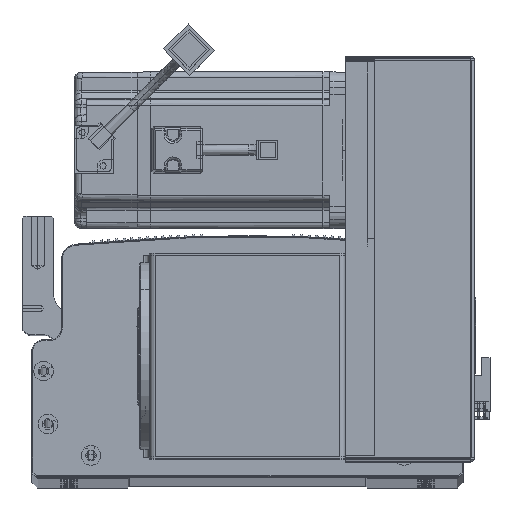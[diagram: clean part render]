
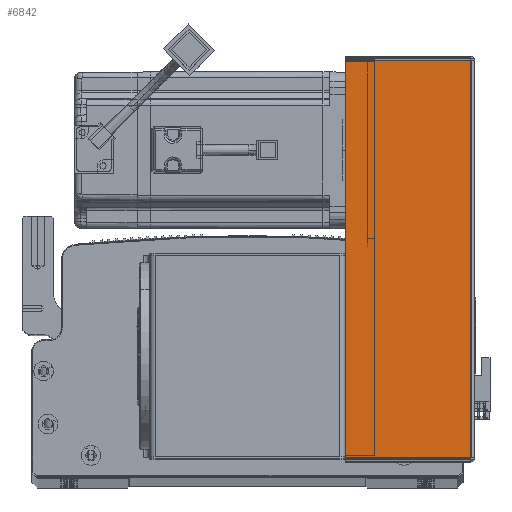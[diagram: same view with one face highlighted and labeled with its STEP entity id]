
A CAD part, top view. The second image highlights one B-rep face of the part: STEP entity #6842.
In plain terms, the highlighted planar face has unit normal (0, 0, 1) as drawn and (0, -1, 0) by its records, which use the part's own axes.
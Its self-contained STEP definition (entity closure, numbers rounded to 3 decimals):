
#4401 = LINE ( 'NONE', #63230, #26476 ) ;
#6519 = CARTESIAN_POINT ( 'NONE',  ( 0.737, -1.5, -0.707 ) ) ;
#6842 = ADVANCED_FACE ( 'NONE', ( #44368 ), #63559, .F. ) ;
#13294 = VERTEX_POINT ( 'NONE', #6519 ) ;
#20211 = DIRECTION ( 'NONE',  ( -1., 0., 0. ) ) ;
#24061 = VECTOR ( 'NONE', #66438, 1000. ) ;
#26415 = DIRECTION ( 'NONE',  ( 0., 1., 0. ) ) ;
#26476 = VECTOR ( 'NONE', #93462, 1000. ) ;
#27157 = CARTESIAN_POINT ( 'NONE',  ( 0., -1.5, -203.293 ) ) ;
#28972 = CARTESIAN_POINT ( 'NONE',  ( 64.5, -1.5, 0. ) ) ;
#30125 = VECTOR ( 'NONE', #78608, 1000. ) ;
#30940 = EDGE_CURVE ( 'NONE', #13294, #68126, #4401, .T. ) ;
#31240 = EDGE_CURVE ( 'NONE', #66837, #68126, #63779, .T. ) ;
#34560 = CARTESIAN_POINT ( 'NONE',  ( 0., -1.5, 0. ) ) ;
#35605 = VECTOR ( 'NONE', #74117, 1000. ) ;
#42943 = LINE ( 'NONE', #27157, #30125 ) ;
#44368 = FACE_OUTER_BOUND ( 'NONE', #50451, .T. ) ;
#45634 = EDGE_CURVE ( 'NONE', #78334, #66837, #42943, .T. ) ;
#46711 = AXIS2_PLACEMENT_3D ( 'NONE', #34560, #26415, #20211 ) ;
#49544 = CARTESIAN_POINT ( 'NONE',  ( 64.5, -1.5, -203.293 ) ) ;
#50451 = EDGE_LOOP ( 'NONE', ( #75321, #73098, #71743, #73730 ) ) ;
#55462 = LINE ( 'NONE', #66671, #35605 ) ;
#60065 = CARTESIAN_POINT ( 'NONE',  ( 64.5, -1.5, -0.707 ) ) ;
#63230 = CARTESIAN_POINT ( 'NONE',  ( 0., -1.5, -0.707 ) ) ;
#63559 = PLANE ( 'NONE',  #46711 ) ;
#63779 = LINE ( 'NONE', #28972, #24061 ) ;
#66438 = DIRECTION ( 'NONE',  ( 0., 0., 1. ) ) ;
#66671 = CARTESIAN_POINT ( 'NONE',  ( 0.737, -1.5, 0. ) ) ;
#66837 = VERTEX_POINT ( 'NONE', #49544 ) ;
#68126 = VERTEX_POINT ( 'NONE', #60065 ) ;
#71743 = ORIENTED_EDGE ( 'NONE', *, *, #31240, .T. ) ;
#73098 = ORIENTED_EDGE ( 'NONE', *, *, #45634, .T. ) ;
#73730 = ORIENTED_EDGE ( 'NONE', *, *, #30940, .F. ) ;
#74117 = DIRECTION ( 'NONE',  ( 0., 0., 1. ) ) ;
#75321 = ORIENTED_EDGE ( 'NONE', *, *, #87234, .F. ) ;
#78334 = VERTEX_POINT ( 'NONE', #87385 ) ;
#78608 = DIRECTION ( 'NONE',  ( 1., 0., 0. ) ) ;
#87234 = EDGE_CURVE ( 'NONE', #78334, #13294, #55462, .T. ) ;
#87385 = CARTESIAN_POINT ( 'NONE',  ( 0.737, -1.5, -203.293 ) ) ;
#93462 = DIRECTION ( 'NONE',  ( 1., 0., 0. ) ) ;
